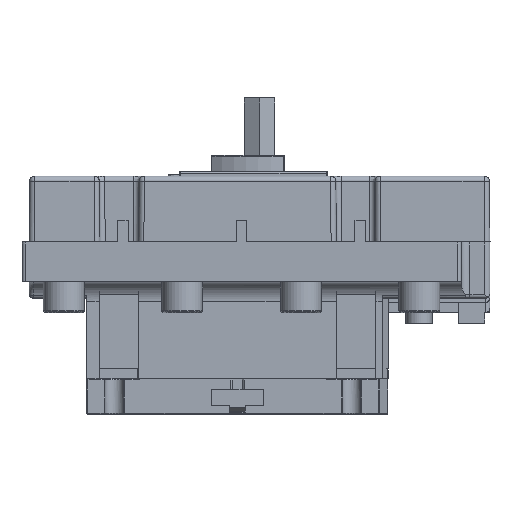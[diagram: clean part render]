
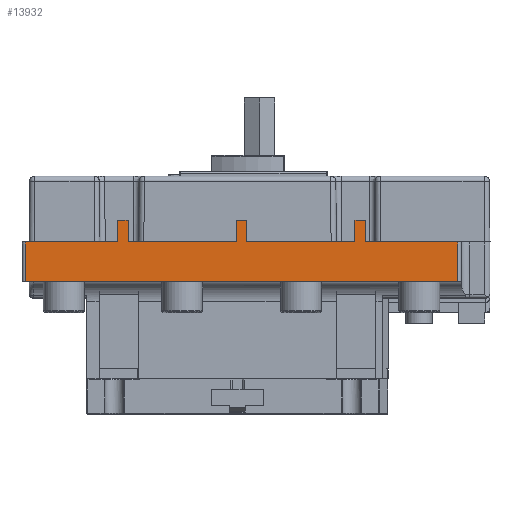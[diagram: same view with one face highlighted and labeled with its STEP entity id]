
A CAD part, front view. The second image highlights one B-rep face of the part: STEP entity #13932.
In plain terms, the highlighted planar face has unit normal (0, -1, 0).
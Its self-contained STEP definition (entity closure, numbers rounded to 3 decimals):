
#233=DIRECTION('',(-1.,0.,0.));
#234=VECTOR('',#233,21.1);
#235=CARTESIAN_POINT('',(-28.15,-56.,0.));
#236=LINE('',#235,#234);
#460=DIRECTION('',(-1.,0.,0.));
#461=VECTOR('',#460,21.1);
#462=CARTESIAN_POINT('',(49.25,-56.,0.));
#463=LINE('',#462,#461);
#490=DIRECTION('',(-1.,0.,0.));
#491=VECTOR('',#490,24.7);
#492=CARTESIAN_POINT('',(25.85,-56.,0.));
#493=LINE('',#492,#491);
#503=DIRECTION('',(-1.,0.,0.));
#504=VECTOR('',#503,24.7);
#505=CARTESIAN_POINT('',(-1.15,-56.,0.));
#506=LINE('',#505,#504);
#2342=DIRECTION('',(-1.,0.,0.));
#2343=VECTOR('',#2342,98.5);
#2344=CARTESIAN_POINT('',(49.25,-56.,-9.1));
#2345=LINE('',#2344,#2343);
#2346=DIRECTION('',(0.,0.,-1.));
#2347=VECTOR('',#2346,5.);
#2348=CARTESIAN_POINT('',(-25.85,-56.,5.));
#2349=LINE('',#2348,#2347);
#2350=DIRECTION('',(0.,0.,-1.));
#2351=VECTOR('',#2350,5.);
#2352=CARTESIAN_POINT('',(1.15,-56.,5.));
#2353=LINE('',#2352,#2351);
#2354=DIRECTION('',(0.,0.,-1.));
#2355=VECTOR('',#2354,5.);
#2356=CARTESIAN_POINT('',(28.15,-56.,5.));
#2357=LINE('',#2356,#2355);
#2362=DIRECTION('',(0.,0.,1.));
#2363=VECTOR('',#2362,9.1);
#2364=CARTESIAN_POINT('',(49.25,-56.,-9.1));
#2365=LINE('',#2364,#2363);
#3045=DIRECTION('',(0.,0.,-1.));
#3046=VECTOR('',#3045,9.1);
#3047=CARTESIAN_POINT('',(-49.25,-56.,0.));
#3048=LINE('',#3047,#3046);
#6277=DIRECTION('',(0.,0.,-1.));
#6278=VECTOR('',#6277,5.);
#6279=CARTESIAN_POINT('',(-28.15,-56.,5.));
#6280=LINE('',#6279,#6278);
#6302=DIRECTION('',(-1.,0.,0.));
#6303=VECTOR('',#6302,2.3);
#6304=CARTESIAN_POINT('',(-25.85,-56.,5.));
#6305=LINE('',#6304,#6303);
#6310=DIRECTION('',(0.,0.,-1.));
#6311=VECTOR('',#6310,5.);
#6312=CARTESIAN_POINT('',(-1.15,-56.,5.));
#6313=LINE('',#6312,#6311);
#6335=DIRECTION('',(-1.,0.,0.));
#6336=VECTOR('',#6335,2.3);
#6337=CARTESIAN_POINT('',(1.15,-56.,5.));
#6338=LINE('',#6337,#6336);
#6343=DIRECTION('',(0.,0.,-1.));
#6344=VECTOR('',#6343,5.);
#6345=CARTESIAN_POINT('',(25.85,-56.,5.));
#6346=LINE('',#6345,#6344);
#6368=DIRECTION('',(-1.,0.,0.));
#6369=VECTOR('',#6368,2.3);
#6370=CARTESIAN_POINT('',(28.15,-56.,5.));
#6371=LINE('',#6370,#6369);
#8682=CARTESIAN_POINT('',(-28.15,-56.,0.));
#8683=VERTEX_POINT('',#8682);
#8684=CARTESIAN_POINT('',(-49.25,-56.,0.));
#8685=VERTEX_POINT('',#8684);
#8813=CARTESIAN_POINT('',(49.25,-56.,0.));
#8814=VERTEX_POINT('',#8813);
#8815=CARTESIAN_POINT('',(28.15,-56.,0.));
#8816=VERTEX_POINT('',#8815);
#9088=CARTESIAN_POINT('',(49.25,-56.,-9.1));
#9089=CARTESIAN_POINT('',(-49.25,-56.,-9.1));
#9090=VERTEX_POINT('',#9088);
#9091=VERTEX_POINT('',#9089);
#9147=CARTESIAN_POINT('',(-28.15,-56.,5.));
#9148=VERTEX_POINT('',#9147);
#9149=CARTESIAN_POINT('',(-25.85,-56.,5.));
#9150=VERTEX_POINT('',#9149);
#9151=CARTESIAN_POINT('',(-25.85,-56.,0.));
#9152=VERTEX_POINT('',#9151);
#9153=CARTESIAN_POINT('',(-1.15,-56.,0.));
#9154=VERTEX_POINT('',#9153);
#9155=CARTESIAN_POINT('',(-1.15,-56.,5.));
#9156=VERTEX_POINT('',#9155);
#9157=CARTESIAN_POINT('',(1.15,-56.,5.));
#9158=VERTEX_POINT('',#9157);
#9159=CARTESIAN_POINT('',(1.15,-56.,0.));
#9160=VERTEX_POINT('',#9159);
#9161=CARTESIAN_POINT('',(25.85,-56.,0.));
#9162=VERTEX_POINT('',#9161);
#9163=CARTESIAN_POINT('',(25.85,-56.,5.));
#9164=VERTEX_POINT('',#9163);
#9165=CARTESIAN_POINT('',(28.15,-56.,5.));
#9166=VERTEX_POINT('',#9165);
#13898=CARTESIAN_POINT('',(-50.,-56.,0.));
#13899=DIRECTION('',(0.,-1.,0.));
#13900=DIRECTION('',(-1.,0.,0.));
#13901=AXIS2_PLACEMENT_3D('',#13898,#13899,#13900);
#13902=PLANE('',#13901);
#13903=ORIENTED_EDGE('',*,*,#11527,.F.);
#13905=ORIENTED_EDGE('',*,*,#13904,.F.);
#13906=ORIENTED_EDGE('',*,*,#13815,.T.);
#13908=ORIENTED_EDGE('',*,*,#13907,.F.);
#13909=ORIENTED_EDGE('',*,*,#11393,.F.);
#13911=ORIENTED_EDGE('',*,*,#13910,.F.);
#13913=ORIENTED_EDGE('',*,*,#13912,.F.);
#13915=ORIENTED_EDGE('',*,*,#13914,.T.);
#13916=ORIENTED_EDGE('',*,*,#11563,.F.);
#13918=ORIENTED_EDGE('',*,*,#13917,.F.);
#13920=ORIENTED_EDGE('',*,*,#13919,.F.);
#13922=ORIENTED_EDGE('',*,*,#13921,.T.);
#13923=ORIENTED_EDGE('',*,*,#11555,.F.);
#13925=ORIENTED_EDGE('',*,*,#13924,.F.);
#13927=ORIENTED_EDGE('',*,*,#13926,.F.);
#13929=ORIENTED_EDGE('',*,*,#13928,.T.);
#13930=EDGE_LOOP('',(#13903,#13905,#13906,#13908,#13909,#13911,#13913,#13915,
#13916,#13918,#13920,#13922,#13923,#13925,#13927,#13929));
#13931=FACE_OUTER_BOUND('',#13930,.F.);
#11393=EDGE_CURVE('',#8683,#8685,#236,.T.);
#11527=EDGE_CURVE('',#8814,#8816,#463,.T.);
#11555=EDGE_CURVE('',#9162,#9160,#493,.T.);
#11563=EDGE_CURVE('',#9154,#9152,#506,.T.);
#13815=EDGE_CURVE('',#9090,#9091,#2345,.T.);
#13904=EDGE_CURVE('',#9090,#8814,#2365,.T.);
#13907=EDGE_CURVE('',#8685,#9091,#3048,.T.);
#13910=EDGE_CURVE('',#9148,#8683,#6280,.T.);
#13912=EDGE_CURVE('',#9150,#9148,#6305,.T.);
#13914=EDGE_CURVE('',#9150,#9152,#2349,.T.);
#13917=EDGE_CURVE('',#9156,#9154,#6313,.T.);
#13919=EDGE_CURVE('',#9158,#9156,#6338,.T.);
#13921=EDGE_CURVE('',#9158,#9160,#2353,.T.);
#13924=EDGE_CURVE('',#9164,#9162,#6346,.T.);
#13926=EDGE_CURVE('',#9166,#9164,#6371,.T.);
#13928=EDGE_CURVE('',#9166,#8816,#2357,.T.);
#13932=ADVANCED_FACE('',(#13931),#13902,.T.);
